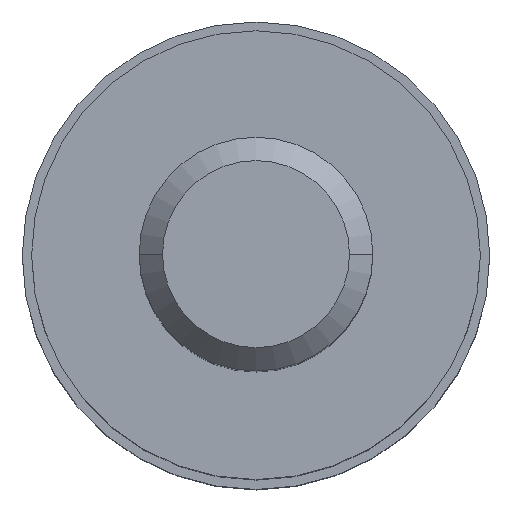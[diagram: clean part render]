
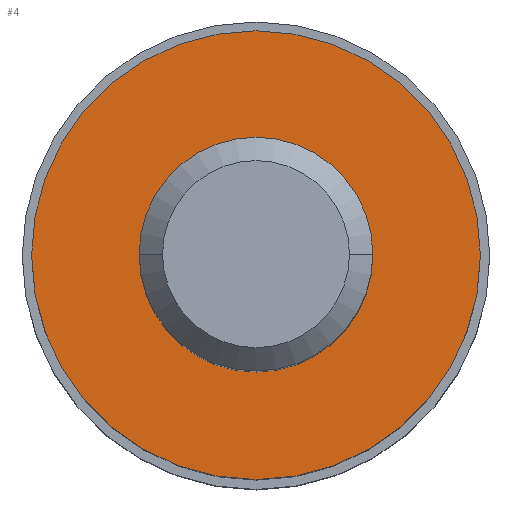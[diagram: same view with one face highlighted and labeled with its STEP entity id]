
A CAD part, top view. The second image highlights one B-rep face of the part: STEP entity #4.
In plain terms, the highlighted planar face has unit normal (0, 0, 1).
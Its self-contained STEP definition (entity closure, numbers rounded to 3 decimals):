
#4 = ADVANCED_FACE ( 'NONE', ( #375, #455 ), #381, .T. ) ;
#5 = CARTESIAN_POINT ( 'NONE',  ( 2.5, 0., -13. ) ) ;
#16 = AXIS2_PLACEMENT_3D ( 'NONE', #125, #135, #484 ) ;
#25 = DIRECTION ( 'NONE',  ( 0., 0., -1. ) ) ;
#27 = CARTESIAN_POINT ( 'NONE',  ( 0., 0., -13. ) ) ;
#42 = VERTEX_POINT ( 'NONE', #371 ) ;
#52 = DIRECTION ( 'NONE',  ( 0., 0., -1. ) ) ;
#57 = EDGE_CURVE ( 'NONE', #407, #42, #90, .T. ) ;
#60 = AXIS2_PLACEMENT_3D ( 'NONE', #134, #25, #497 ) ;
#66 = DIRECTION ( 'NONE',  ( 0., 0., -1. ) ) ;
#90 = CIRCLE ( 'NONE', #60, 2.5 ) ;
#94 = ORIENTED_EDGE ( 'NONE', *, *, #489, .F. ) ;
#99 = AXIS2_PLACEMENT_3D ( 'NONE', #27, #66, #255 ) ;
#124 = ORIENTED_EDGE ( 'NONE', *, *, #57, .T. ) ;
#125 = CARTESIAN_POINT ( 'NONE',  ( 0., 0., -13. ) ) ;
#134 = CARTESIAN_POINT ( 'NONE',  ( 0., 0., -13. ) ) ;
#135 = DIRECTION ( 'NONE',  ( 0., 0., -1. ) ) ;
#177 = CARTESIAN_POINT ( 'NONE',  ( 0., 4.8, -13. ) ) ;
#178 = EDGE_CURVE ( 'NONE', #401, #439, #353, .T. ) ;
#179 = DIRECTION ( 'NONE',  ( 1., 0., 0. ) ) ;
#214 = CIRCLE ( 'NONE', #352, 2.5 ) ;
#215 = CIRCLE ( 'NONE', #16, 4.8 ) ;
#222 = CARTESIAN_POINT ( 'NONE',  ( -4.8, 0., -13. ) ) ;
#225 = EDGE_LOOP ( 'NONE', ( #412, #94 ) ) ;
#251 = DIRECTION ( 'NONE',  ( 0., 0., 1. ) ) ;
#255 = DIRECTION ( 'NONE',  ( -1., 0., 0. ) ) ;
#319 = ORIENTED_EDGE ( 'NONE', *, *, #473, .T. ) ;
#332 = DIRECTION ( 'NONE',  ( -1., 0., 0. ) ) ;
#348 = CARTESIAN_POINT ( 'NONE',  ( 4.8, 0., -13. ) ) ;
#352 = AXIS2_PLACEMENT_3D ( 'NONE', #376, #52, #332 ) ;
#353 = CIRCLE ( 'NONE', #99, 4.8 ) ;
#371 = CARTESIAN_POINT ( 'NONE',  ( -2.5, 0., -13. ) ) ;
#375 = FACE_BOUND ( 'NONE', #458, .T. ) ;
#376 = CARTESIAN_POINT ( 'NONE',  ( 0., 0., -13. ) ) ;
#381 = PLANE ( 'NONE',  #487 ) ;
#401 = VERTEX_POINT ( 'NONE', #222 ) ;
#407 = VERTEX_POINT ( 'NONE', #5 ) ;
#412 = ORIENTED_EDGE ( 'NONE', *, *, #178, .F. ) ;
#439 = VERTEX_POINT ( 'NONE', #348 ) ;
#455 = FACE_OUTER_BOUND ( 'NONE', #225, .T. ) ;
#458 = EDGE_LOOP ( 'NONE', ( #319, #124 ) ) ;
#473 = EDGE_CURVE ( 'NONE', #42, #407, #214, .T. ) ;
#484 = DIRECTION ( 'NONE',  ( -1., 0., 0. ) ) ;
#487 = AXIS2_PLACEMENT_3D ( 'NONE', #177, #251, #179 ) ;
#489 = EDGE_CURVE ( 'NONE', #439, #401, #215, .T. ) ;
#497 = DIRECTION ( 'NONE',  ( -1., 0., 0. ) ) ;
